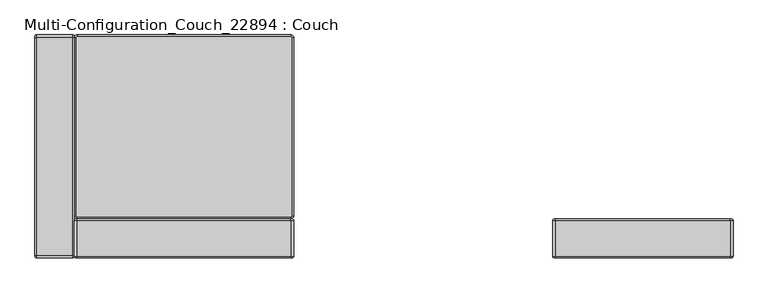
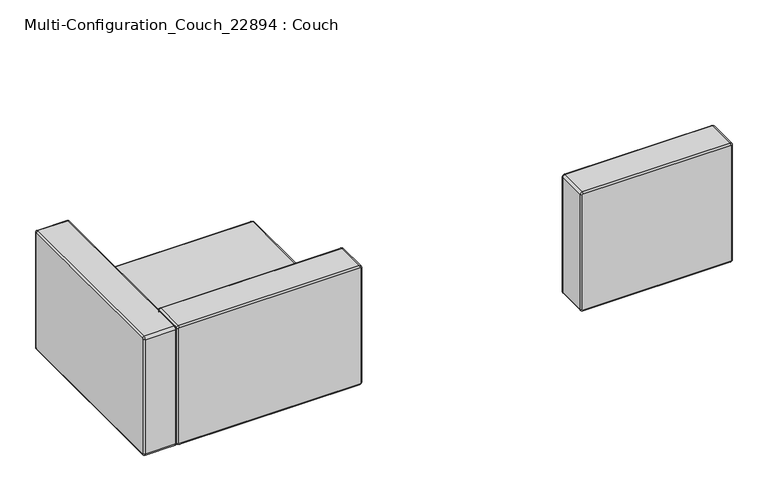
"""IFC4 building model written with IfcOpenShell, lengths in millimetres: furniture geometry, Multi-Configuration_Couch_22894 : Couch."""

from ifc_helpers import new_model, si_unit, point, frame, origin, place, context, project, spatial, circle_curve, ellipse_curve, trimmed, source, transform, mapped, element, save
from ifc_brep_helpers import plane_surface, cylinder_surface, revolved_surface, advanced_brep


def multi_configuration_couch_22894_couch_5e26b473(model_context):
    return source(origin(), model_context, "Body", "AdvancedBrep", [
        advanced_brep(
        [(-144.1762295, -114.3520492, 304.8), (-147.3512295, -111.1770492, 304.8), (-839.5012295, -111.1770492, 304.8), (-842.6762295, -114.3520492, 304.8), (-842.6762295, -692.2020492, 304.8), (-839.5012295, -695.3770492, 304.8), (-147.3512295, -695.3770492, 304.8), (-144.1762295, -692.2020492, 304.8), (-144.1762295, -692.2020492, 76.2), (-147.3512295, -695.3770492, 76.2), (-839.5012295, -695.3770492, 76.2), (-842.6762295, -692.2020492, 76.2), (-842.6762295, -114.3520492, 76.2), (-839.5012295, -111.1770492, 76.2), (-147.3512295, -111.1770492, 76.2), (-144.1762295, -114.3520492, 76.2), (-147.3512295, -104.8270492, 298.45), (-147.3512295, -104.8270492, 82.55), (-839.5012295, -104.8270492, 82.55), (-839.5012295, -104.8270492, 298.4500063), (-137.8262295, -692.2020492, 298.45), (-137.8262295, -692.2020492, 82.55), (-137.8262295, -114.3520492, 82.55), (-137.8262295, -114.3520492, 298.45), (-839.5012295, -701.7270492, 298.45), (-839.5012295, -701.7270492, 82.55), (-147.3512295, -701.7270492, 82.55), (-147.3512295, -701.7270492, 298.45), (-849.0262295, -114.3520492, 298.45), (-849.0262295, -114.3520492, 82.55), (-849.0262295, -692.2020492, 82.55), (-849.0262295, -692.2020492, 298.45)],
        [
            (0, 1, circle_curve(frame((-147.3512295, -114.3520492, 304.8), z_axis=(0.0, 0.0, 1.0), x_axis=(0.0, 1.0, 0.0)), 3.175)),
            (1, 2),
            (2, 3, circle_curve(frame((-839.5012295, -114.3520492, 304.8), z_axis=(0.0, 0.0, 1.0), x_axis=(-1.0, 0.0, 0.0)), 3.175)),
            (3, 4),
            (4, 5, circle_curve(frame((-839.5012295, -692.2020492, 304.8), z_axis=(0.0, 0.0, 1.0), x_axis=(0.0, -1.0, 0.0)), 3.175)),
            (5, 6),
            (6, 7, circle_curve(frame((-147.3512295, -692.2020492, 304.8), z_axis=(0.0, 0.0, 1.0), x_axis=(1.0, 0.0, 0.0)), 3.175)),
            (7, 0),
            (8, 9, circle_curve(frame((-147.3512295, -692.2020492, 76.2), z_axis=(0.0, 0.0, -1.0), x_axis=(1.0, 0.0, 0.0)), 3.175)),
            (9, 10),
            (10, 11, circle_curve(frame((-839.5012295, -692.2020492, 76.2), z_axis=(0.0, 0.0, -1.0), x_axis=(0.0, -1.0, 0.0)), 3.175)),
            (11, 12),
            (12, 13, circle_curve(frame((-839.5012295, -114.3520492, 76.2), z_axis=(0.0, 0.0, -1.0), x_axis=(-1.0, 0.0, 0.0)), 3.175)),
            (13, 14),
            (14, 15, circle_curve(frame((-147.3512295, -114.3520492, 76.2), z_axis=(0.0, 0.0, -1.0), x_axis=(0.0, 1.0, 0.0)), 3.175)),
            (15, 8),
            (16, 17),
            (17, 18),
            (18, 19),
            (19, 16),
            (20, 21),
            (21, 22),
            (22, 23),
            (23, 20),
            (24, 25),
            (25, 26),
            (26, 27),
            (27, 24),
            (28, 29),
            (29, 30),
            (30, 31),
            (31, 28),
            (22, 17, circle_curve(frame((-147.3512295, -114.3520492, 82.55), z_axis=(0.0, 0.0, 1.0), x_axis=(-1.0, 0.0, 0.0)), 9.525)),
            (16, 23, circle_curve(frame((-147.3512295, -114.3520492, 298.45), z_axis=(0.0, 0.0, -1.0), x_axis=(-1.0, 0.0, 0.0)), 9.525)),
            (18, 29, circle_curve(frame((-839.5012295, -114.3520492, 82.55), z_axis=(0.0, 0.0, 1.0), x_axis=(-1.0, 0.0, 0.0)), 9.525)),
            (28, 19, circle_curve(frame((-839.5012295, -114.3520492, 298.45), z_axis=(0.0, 0.0, -1.0), x_axis=(-1.0, 0.0, 0.0)), 9.525)),
            (26, 21, circle_curve(frame((-147.3512295, -692.2020492, 82.55), z_axis=(0.0, 0.0, 1.0), x_axis=(-1.0, 0.0, 0.0)), 9.525)),
            (20, 27, circle_curve(frame((-147.3512295, -692.2020492, 298.45), z_axis=(0.0, 0.0, -1.0), x_axis=(-1.0, 0.0, 0.0)), 9.525)),
            (30, 25, circle_curve(frame((-839.5012295, -692.2020492, 82.55), z_axis=(0.0, 0.0, 1.0), x_axis=(-1.0, 0.0, 0.0)), 9.525)),
            (24, 31, circle_curve(frame((-839.5012295, -692.2020492, 298.45), z_axis=(0.0, 0.0, -1.0), x_axis=(-1.0, 0.0, 0.0)), 9.525)),
            (23, 0, circle_curve(frame((-144.1762295, -114.3520492, 298.45), z_axis=(0.0, -1.0, 0.0), x_axis=(-1.0, 0.0, 0.0)), 6.35)),
            (7, 20, circle_curve(frame((-144.1762295, -692.2020492, 298.45), z_axis=(0.0, 1.0, 0.0), x_axis=(-1.0, 0.0, 0.0)), 6.35)),
            (27, 6, circle_curve(frame((-147.3512295, -695.3770492, 298.45), z_axis=(-1.0, 0.0, 0.0), x_axis=(0.0, 1.0, 0.0)), 6.35)),
            (5, 24, circle_curve(frame((-839.5012295, -695.3770492, 298.45), z_axis=(1.0, 0.0, 0.0), x_axis=(0.0, 1.0, 0.0)), 6.35)),
            (31, 4, circle_curve(frame((-842.6762295, -692.2020492, 298.45), z_axis=(0.0, 1.0, 0.0), x_axis=(1.0, 0.0, 0.0)), 6.35)),
            (3, 28, circle_curve(frame((-842.6762295, -114.3520492, 298.45), z_axis=(0.0, -1.0, 0.0), x_axis=(1.0, 0.0, 0.0)), 6.35)),
            (2, 19, circle_curve(frame((-839.5012295, -111.1770492, 298.45), z_axis=(-1.0, 0.0, 0.0), x_axis=(0.0, -1.0, 0.0)), 6.35)),
            (1, 16, circle_curve(frame((-147.3512295, -111.1770492, 298.45), z_axis=(-1.0, 0.0, 0.0), x_axis=(0.0, -1.0, 0.0)), 6.35)),
            (15, 22, circle_curve(frame((-144.1762295, -114.3520492, 82.55), z_axis=(0.0, -1.0, 0.0), x_axis=(-1.0, 0.0, 0.0)), 6.35)),
            (21, 8, circle_curve(frame((-144.1762295, -692.2020492, 82.55), z_axis=(0.0, 1.0, 0.0), x_axis=(-1.0, 0.0, 0.0)), 6.35)),
            (9, 26, circle_curve(frame((-147.3512295, -695.3770492, 82.55), z_axis=(-1.0, 0.0, 0.0), x_axis=(0.0, 1.0, 0.0)), 6.35)),
            (25, 10, circle_curve(frame((-839.5012295, -695.3770492, 82.55), z_axis=(1.0, 0.0, 0.0), x_axis=(0.0, 1.0, 0.0)), 6.35)),
            (11, 30, circle_curve(frame((-842.6762295, -692.2020492, 82.55), z_axis=(0.0, 1.0, 0.0), x_axis=(1.0, 0.0, 0.0)), 6.35)),
            (29, 12, circle_curve(frame((-842.6762295, -114.3520492, 82.55), z_axis=(0.0, -1.0, 0.0), x_axis=(1.0, 0.0, 0.0)), 6.35)),
            (13, 18, circle_curve(frame((-839.5012295, -111.1770492, 82.55), z_axis=(1.0, 0.0, 0.0), x_axis=(0.0, -1.0, 0.0)), 6.35)),
            (17, 14, circle_curve(frame((-147.3512295, -111.1770492, 82.55), z_axis=(-1.0, 0.0, 0.0), x_axis=(0.0, -1.0, 0.0)), 6.35)),
        ],
        [
            plane_surface(frame((-137.8262295, -104.8270492, 304.8), z_axis=(0.0, 0.0, 1.0), x_axis=(1.0, 0.0, 0.0))),
            plane_surface(frame((-137.8262295, -104.8270492, 76.2), z_axis=(0.0, 0.0, -1.0), x_axis=(-1.0, 0.0, 0.0))),
            plane_surface(frame((-849.0262295, -104.8270492, 304.8), z_axis=(0.0, 1.0, 0.0), x_axis=(0.0, 0.0, -1.0))),
            plane_surface(frame((-137.8262295, -104.8270492, 304.8), z_axis=(1.0, 0.0, 0.0), x_axis=(0.0, 0.0, -1.0))),
            plane_surface(frame((-137.8262295, -701.7270492, 304.8), z_axis=(0.0, -1.0, 0.0), x_axis=(0.0, 0.0, -1.0))),
            plane_surface(frame((-849.0262295, -701.7270492, 304.8), z_axis=(-1.0, 0.0, 0.0), x_axis=(0.0, 0.0, -1.0))),
            cylinder_surface(frame((-147.3512295, -114.3520492, 76.2), z_axis=(0.0, 0.0, -1.0), x_axis=(-1.0, 0.0, 0.0)), 9.525),
            cylinder_surface(frame((-839.5012295, -114.3520492, 76.2), z_axis=(0.0, 0.0, -1.0), x_axis=(-1.0, 0.0, 0.0)), 9.525),
            cylinder_surface(frame((-147.3512295, -692.2020492, 76.2), z_axis=(0.0, 0.0, -1.0), x_axis=(-1.0, 0.0, 0.0)), 9.525),
            cylinder_surface(frame((-839.5012295, -692.2020492, 76.2), z_axis=(0.0, 0.0, -1.0), x_axis=(-1.0, 0.0, 0.0)), 9.525),
            cylinder_surface(frame((-144.1762295, -114.3520492, 298.45), z_axis=(0.0, -1.0, 0.0), x_axis=(-1.0, 0.0, 0.0)), 6.35),
            cylinder_surface(frame((-147.3512295, -695.3770492, 298.45), z_axis=(-1.0, 0.0, 0.0), x_axis=(0.0, 1.0, 0.0)), 6.35),
            cylinder_surface(frame((-842.6762295, -692.2020492, 298.45), z_axis=(0.0, 1.0, 0.0), x_axis=(1.0, 0.0, 0.0)), 6.35),
            revolved_surface(trimmed(ellipse_curve(frame((-842.6762295, -114.3520492, 298.45), z_axis=(0.0, 1.0, 0.0), x_axis=(1.0, 0.0, 0.0)), 6.35, 6.35), [point((-849.0262295, -114.3520492, 298.45))], [point((-842.6762295, -114.3520492, 304.8))], True, "CARTESIAN"), (-839.5012295, -114.3520492, 304.8), (0.0, 0.0, 1.0)),
            cylinder_surface(frame((-839.5012295, -111.1770492, 298.45), z_axis=(1.0, 0.0, 0.0), x_axis=(0.0, -1.0, 0.0)), 6.35),
            cylinder_surface(frame((-144.1762295, -114.3520492, 82.55), z_axis=(0.0, -1.0, 0.0), x_axis=(-1.0, 0.0, 0.0)), 6.35),
            cylinder_surface(frame((-147.3512295, -695.3770492, 82.55), z_axis=(-1.0, 0.0, 0.0), x_axis=(0.0, 1.0, 0.0)), 6.35),
            cylinder_surface(frame((-842.6762295, -692.2020492, 82.55), z_axis=(0.0, 1.0, 0.0), x_axis=(1.0, 0.0, 0.0)), 6.35),
            cylinder_surface(frame((-839.5012295, -111.1770492, 82.55), z_axis=(1.0, 0.0, 0.0), x_axis=(0.0, -1.0, 0.0)), 6.35),
            revolved_surface(trimmed(ellipse_curve(frame((-147.3512295, -111.1770492, 298.45), z_axis=(1.0, 0.0, 0.0), x_axis=(0.0, -1.0, 0.0)), 6.35, 6.35), [point((-147.3512295, -104.8270492, 298.45))], [point((-147.3512295, -111.1770492, 304.8))], True, "CARTESIAN"), (-147.3512295, -114.3520492, 304.8), (0.0, 0.0, 1.0)),
            revolved_surface(trimmed(ellipse_curve(frame((-144.1762295, -692.2020492, 298.45), z_axis=(0.0, -1.0, 0.0), x_axis=(-1.0, 0.0, 0.0)), 6.35, 6.35), [point((-137.8262295, -692.2020492, 298.45))], [point((-144.1762295, -692.2020492, 304.8))], True, "CARTESIAN"), (-147.3512295, -692.2020492, 304.8), (0.0, 0.0, 1.0)),
            revolved_surface(trimmed(ellipse_curve(frame((-839.5012295, -695.3770492, 298.45), z_axis=(-1.0, 0.0, 0.0), x_axis=(0.0, 1.0, 0.0)), 6.35, 6.35), [point((-839.5012295, -701.7270492, 298.45))], [point((-839.5012295, -695.3770492, 304.8))], True, "CARTESIAN"), (-839.5012295, -692.2020492, 304.8), (0.0, 0.0, 1.0)),
            revolved_surface(trimmed(ellipse_curve(frame((-147.3512295, -111.1770492, 82.55), z_axis=(1.0, 0.0, 0.0), x_axis=(0.0, -1.0, 0.0)), 6.35, 6.35), [point((-147.3512295, -111.1770492, 76.2))], [point((-147.3512295, -104.8270492, 82.55))], True, "CARTESIAN"), (-147.3512295, -114.3520492, 76.2), (0.0, 0.0, 1.0)),
            revolved_surface(trimmed(ellipse_curve(frame((-144.1762295, -692.2020492, 82.55), z_axis=(0.0, -1.0, 0.0), x_axis=(-1.0, 0.0, 0.0)), 6.35, 6.35), [point((-144.1762295, -692.2020492, 76.2))], [point((-137.8262295, -692.2020492, 82.55))], True, "CARTESIAN"), (-147.3512295, -692.2020492, 76.2), (0.0, 0.0, 1.0)),
            revolved_surface(trimmed(ellipse_curve(frame((-839.5012295, -695.3770492, 82.55), z_axis=(-1.0, 0.0, 0.0), x_axis=(0.0, 1.0, 0.0)), 6.35, 6.35), [point((-839.5012295, -695.3770492, 76.2))], [point((-839.5012295, -701.7270492, 82.55))], True, "CARTESIAN"), (-839.5012295, -692.2020492, 76.2), (0.0, 0.0, 1.0)),
            revolved_surface(trimmed(ellipse_curve(frame((-842.6762295, -114.3520492, 82.55), z_axis=(0.0, 1.0, 0.0), x_axis=(1.0, 0.0, 0.0)), 6.35, 6.35), [point((-842.6762295, -114.3520492, 76.2))], [point((-849.0262295, -114.3520492, 82.55))], True, "CARTESIAN"), (-839.5012295, -114.3520492, 76.2), (0.0, 0.0, 1.0)),
        ],
        [
            (0, [[1, 2, 3, 4, 5, 6, 7, 8]]),
            (1, [[9, 10, 11, 12, 13, 14, 15, 16]]),
            (2, [[17, 18, 19, 20]]),
            (3, [[21, 22, 23, 24]]),
            (4, [[25, 26, 27, 28]]),
            (5, [[29, 30, 31, 32]]),
            (6, [[-23, 33, -17, 34]]),
            (7, [[-19, 35, -29, 36]]),
            (8, [[-27, 37, -21, 38]]),
            (9, [[-31, 39, -25, 40]]),
            (10, [[-24, 41, -8, 42]]),
            (11, [[-28, 43, -6, 44]]),
            (12, [[-32, 45, -4, 46]]),
            (13, [[-3, 47, -36, -46]]),
            (14, [[-2, 48, -20, -47]]),
            (15, [[-16, 49, -22, 50]]),
            (16, [[-10, 51, -26, 52]]),
            (17, [[-12, 53, -30, 54]]),
            (18, [[-14, 55, -18, 56]]),
            (19, [[-34, -48, -1, -41]]),
            (20, [[-7, -43, -38, -42]]),
            (21, [[-5, -45, -40, -44]]),
            (22, [[-15, -56, -33, -49]]),
            (23, [[-37, -51, -9, -50]]),
            (24, [[-39, -53, -11, -52]]),
            (25, [[-35, -55, -13, -54]]),
        ],
    ),
        advanced_brep(
        [(-842.6762295, -701.7270492, 549.275), (-839.5012295, -701.7270492, 552.45), (-147.3512295, -701.7270492, 552.45), (-144.1762295, -701.7270492, 549.275), (-144.1762295, -701.7270492, 85.725), (-147.3512295, -701.7270492, 82.55), (-839.5012295, -701.7270492, 82.55), (-842.6762295, -701.7270492, 85.725), (-842.6762295, -828.7270492, 85.725), (-839.5012295, -828.7270492, 82.55), (-147.3512295, -828.7270492, 82.55), (-144.1762295, -828.7270492, 85.725), (-144.1762295, -828.7270492, 549.275), (-147.3512295, -828.7270492, 552.45), (-839.5012295, -828.7270492, 552.45), (-842.6762295, -828.7270492, 549.275), (-839.5012295, -708.0770492, 558.8), (-839.5012295, -822.3770492, 558.8), (-147.3512295, -822.3770492, 558.8), (-147.3512295, -708.0770428, 558.8), (-849.0262295, -708.0770492, 85.725), (-849.0262295, -822.3770492, 85.725), (-849.0262295, -822.3770492, 549.275), (-849.0262295, -708.0770492, 549.275), (-147.3512295, -708.0770492, 76.2), (-147.3512295, -822.3770492, 76.2), (-839.5012295, -822.3770492, 76.2), (-839.5012295, -708.0770492, 76.2), (-137.8262295, -708.0770492, 549.275), (-137.8262295, -822.3770492, 549.275), (-137.8262295, -822.3770492, 85.725), (-137.8262295, -708.0770492, 85.725)],
        [
            (0, 1, circle_curve(frame((-839.5012295, -701.7270492, 549.275), z_axis=(0.0, 1.0, 0.0), x_axis=(0.0, 0.0, 1.0)), 3.175)),
            (1, 2),
            (2, 3, circle_curve(frame((-147.3512295, -701.7270492, 549.275), z_axis=(0.0, 1.0, 0.0), x_axis=(1.0, 0.0, 0.0)), 3.175)),
            (3, 4),
            (4, 5, circle_curve(frame((-147.3512295, -701.7270492, 85.725), z_axis=(0.0, 1.0, 0.0), x_axis=(0.0, 0.0, -1.0)), 3.175)),
            (5, 6),
            (6, 7, circle_curve(frame((-839.5012295, -701.7270492, 85.725), z_axis=(0.0, 1.0, 0.0), x_axis=(-1.0, 0.0, 0.0)), 3.175)),
            (7, 0),
            (8, 9, circle_curve(frame((-839.5012295, -828.7270492, 85.725), z_axis=(0.0, -1.0, 0.0), x_axis=(-1.0, 0.0, 0.0)), 3.175)),
            (9, 10),
            (10, 11, circle_curve(frame((-147.3512295, -828.7270492, 85.725), z_axis=(0.0, -1.0, 0.0), x_axis=(0.0, 0.0, -1.0)), 3.175)),
            (11, 12),
            (12, 13, circle_curve(frame((-147.3512295, -828.7270492, 549.275), z_axis=(0.0, -1.0, 0.0), x_axis=(1.0, 0.0, 0.0)), 3.175)),
            (13, 14),
            (14, 15, circle_curve(frame((-839.5012295, -828.7270492, 549.275), z_axis=(0.0, -1.0, 0.0), x_axis=(0.0, 0.0, 1.0)), 3.175)),
            (15, 8),
            (16, 17),
            (17, 18),
            (18, 19),
            (19, 16),
            (20, 21),
            (21, 22),
            (22, 23),
            (23, 20),
            (24, 25),
            (25, 26),
            (26, 27),
            (27, 24),
            (28, 29),
            (29, 30),
            (30, 31),
            (31, 28),
            (22, 17, circle_curve(frame((-839.5012295, -822.3770492, 549.275), z_axis=(0.0, 1.0, 0.0), x_axis=(1.0, 0.0, 0.0)), 9.525)),
            (16, 23, circle_curve(frame((-839.5012295, -708.0770492, 549.275), z_axis=(0.0, -1.0, 0.0), x_axis=(1.0, 0.0, 0.0)), 9.525)),
            (18, 29, circle_curve(frame((-147.3512295, -822.3770492, 549.275), z_axis=(0.0, 1.0, 0.0), x_axis=(1.0, 0.0, 0.0)), 9.525)),
            (28, 19, circle_curve(frame((-147.3512295, -708.0770492, 549.275), z_axis=(0.0, -1.0, 0.0), x_axis=(1.0, 0.0, 0.0)), 9.525)),
            (26, 21, circle_curve(frame((-839.5012295, -822.3770492, 85.725), z_axis=(0.0, 1.0, 0.0), x_axis=(1.0, 0.0, 0.0)), 9.525)),
            (20, 27, circle_curve(frame((-839.5012295, -708.0770492, 85.725), z_axis=(0.0, -1.0, 0.0), x_axis=(1.0, 0.0, 0.0)), 9.525)),
            (30, 25, circle_curve(frame((-147.3512295, -822.3770492, 85.725), z_axis=(0.0, 1.0, 0.0), x_axis=(1.0, 0.0, 0.0)), 9.525)),
            (24, 31, circle_curve(frame((-147.3512295, -708.0770492, 85.725), z_axis=(0.0, -1.0, 0.0), x_axis=(1.0, 0.0, 0.0)), 9.525)),
            (23, 0, circle_curve(frame((-842.6762295, -708.0770492, 549.275), z_axis=(0.0, 0.0, -1.0), x_axis=(1.0, 0.0, 0.0)), 6.35)),
            (7, 20, circle_curve(frame((-842.6762295, -708.0770492, 85.725), z_axis=(0.0, 0.0, 1.0), x_axis=(1.0, 0.0, 0.0)), 6.35)),
            (27, 6, circle_curve(frame((-839.5012295, -708.0770492, 82.55), z_axis=(1.0, 0.0, 0.0), x_axis=(0.0, 0.0, 1.0)), 6.35)),
            (5, 24, circle_curve(frame((-147.3512295, -708.0770492, 82.55), z_axis=(-1.0, 0.0, 0.0), x_axis=(0.0, 0.0, 1.0)), 6.35)),
            (31, 4, circle_curve(frame((-144.1762295, -708.0770492, 85.725), z_axis=(0.0, 0.0, 1.0), x_axis=(-1.0, 0.0, 0.0)), 6.35)),
            (3, 28, circle_curve(frame((-144.1762295, -708.0770492, 549.275), z_axis=(0.0, 0.0, -1.0), x_axis=(-1.0, 0.0, 0.0)), 6.35)),
            (2, 19, circle_curve(frame((-147.3512295, -708.0770492, 552.45), z_axis=(1.0, 0.0, 0.0), x_axis=(0.0, 0.0, -1.0)), 6.35)),
            (1, 16, circle_curve(frame((-839.5012295, -708.0770492, 552.45), z_axis=(1.0, 0.0, 0.0), x_axis=(0.0, 0.0, -1.0)), 6.35)),
            (15, 22, circle_curve(frame((-842.6762295, -822.3770492, 549.275), z_axis=(0.0, 0.0, -1.0), x_axis=(1.0, 0.0, 0.0)), 6.35)),
            (21, 8, circle_curve(frame((-842.6762295, -822.3770492, 85.725), z_axis=(0.0, 0.0, 1.0), x_axis=(1.0, 0.0, 0.0)), 6.35)),
            (9, 26, circle_curve(frame((-839.5012295, -822.3770492, 82.55), z_axis=(1.0, 0.0, 0.0), x_axis=(0.0, 0.0, 1.0)), 6.35)),
            (25, 10, circle_curve(frame((-147.3512295, -822.3770492, 82.55), z_axis=(-1.0, 0.0, 0.0), x_axis=(0.0, 0.0, 1.0)), 6.35)),
            (11, 30, circle_curve(frame((-144.1762295, -822.3770492, 85.725), z_axis=(0.0, 0.0, 1.0), x_axis=(-1.0, 0.0, 0.0)), 6.35)),
            (29, 12, circle_curve(frame((-144.1762295, -822.3770492, 549.275), z_axis=(0.0, 0.0, -1.0), x_axis=(-1.0, 0.0, 0.0)), 6.35)),
            (13, 18, circle_curve(frame((-147.3512295, -822.3770492, 552.45), z_axis=(-1.0, 0.0, 0.0), x_axis=(0.0, 0.0, -1.0)), 6.35)),
            (17, 14, circle_curve(frame((-839.5012295, -822.3770492, 552.45), z_axis=(1.0, 0.0, 0.0), x_axis=(0.0, 0.0, -1.0)), 6.35)),
        ],
        [
            plane_surface(frame((-849.0262295, -701.7270492, 558.8), z_axis=(0.0, 1.0, 0.0), x_axis=(-1.0, 0.0, 0.0))),
            plane_surface(frame((-849.0262295, -828.7270492, 558.8), z_axis=(0.0, -1.0, 0.0), x_axis=(1.0, 0.0, 0.0))),
            plane_surface(frame((-137.8262295, -701.7270492, 558.8), z_axis=(0.0, 0.0, 1.0), x_axis=(0.0, -1.0, 0.0))),
            plane_surface(frame((-849.0262295, -701.7270492, 558.8), z_axis=(-1.0, 0.0, 0.0), x_axis=(0.0, -1.0, 0.0))),
            plane_surface(frame((-849.0262295, -701.7270492, 76.2), z_axis=(0.0, 0.0, -1.0), x_axis=(0.0, -1.0, 0.0))),
            plane_surface(frame((-137.8262295, -701.7270492, 76.2), z_axis=(1.0, 0.0, 0.0), x_axis=(0.0, -1.0, 0.0))),
            cylinder_surface(frame((-839.5012295, -828.7270492, 549.275), z_axis=(0.0, -1.0, 0.0), x_axis=(1.0, 0.0, 0.0)), 9.525),
            cylinder_surface(frame((-147.3512295, -828.7270492, 549.275), z_axis=(0.0, -1.0, 0.0), x_axis=(1.0, 0.0, 0.0)), 9.525),
            cylinder_surface(frame((-839.5012295, -828.7270492, 85.725), z_axis=(0.0, -1.0, 0.0), x_axis=(1.0, 0.0, 0.0)), 9.525),
            cylinder_surface(frame((-147.3512295, -828.7270492, 85.725), z_axis=(0.0, -1.0, 0.0), x_axis=(1.0, 0.0, 0.0)), 9.525),
            cylinder_surface(frame((-842.6762295, -708.0770492, 549.275), z_axis=(0.0, 0.0, -1.0), x_axis=(1.0, 0.0, 0.0)), 6.35),
            cylinder_surface(frame((-839.5012295, -708.0770492, 82.55), z_axis=(1.0, 0.0, 0.0), x_axis=(0.0, 0.0, 1.0)), 6.35),
            cylinder_surface(frame((-144.1762295, -708.0770492, 85.725), z_axis=(0.0, 0.0, 1.0), x_axis=(-1.0, 0.0, 0.0)), 6.35),
            revolved_surface(trimmed(ellipse_curve(frame((-144.1762295, -708.0770492, 549.275), z_axis=(0.0, 0.0, 1.0), x_axis=(-1.0, 0.0, 0.0)), 6.35, 6.35), [point((-137.8262295, -708.0770492, 549.275))], [point((-144.1762295, -701.7270492, 549.275))], True, "CARTESIAN"), (-147.3512295, -701.7270492, 549.275), (0.0, 1.0, 0.0)),
            cylinder_surface(frame((-147.3512295, -708.0770492, 552.45), z_axis=(-1.0, 0.0, 0.0), x_axis=(0.0, 0.0, -1.0)), 6.35),
            cylinder_surface(frame((-842.6762295, -822.3770492, 549.275), z_axis=(0.0, 0.0, -1.0), x_axis=(1.0, 0.0, 0.0)), 6.35),
            cylinder_surface(frame((-839.5012295, -822.3770492, 82.55), z_axis=(1.0, 0.0, 0.0), x_axis=(0.0, 0.0, 1.0)), 6.35),
            cylinder_surface(frame((-144.1762295, -822.3770492, 85.725), z_axis=(0.0, 0.0, 1.0), x_axis=(-1.0, 0.0, 0.0)), 6.35),
            cylinder_surface(frame((-147.3512295, -822.3770492, 552.45), z_axis=(-1.0, 0.0, 0.0), x_axis=(0.0, 0.0, -1.0)), 6.35),
            revolved_surface(trimmed(ellipse_curve(frame((-839.5012295, -708.0770492, 552.45), z_axis=(-1.0, 0.0, 0.0), x_axis=(0.0, 0.0, -1.0)), 6.35, 6.35), [point((-839.5012295, -708.0770492, 558.8))], [point((-839.5012295, -701.7270492, 552.45))], True, "CARTESIAN"), (-839.5012295, -701.7270492, 549.275), (0.0, 1.0, 0.0)),
            revolved_surface(trimmed(ellipse_curve(frame((-842.6762295, -708.0770492, 85.725), z_axis=(0.0, 0.0, -1.0), x_axis=(1.0, 0.0, 0.0)), 6.35, 6.35), [point((-849.0262295, -708.0770492, 85.725))], [point((-842.6762295, -701.7270492, 85.725))], True, "CARTESIAN"), (-839.5012295, -701.7270492, 85.725), (0.0, 1.0, 0.0)),
            revolved_surface(trimmed(ellipse_curve(frame((-147.3512295, -708.0770492, 82.55), z_axis=(1.0, 0.0, 0.0), x_axis=(0.0, 0.0, 1.0)), 6.35, 6.35), [point((-147.3512295, -708.0770492, 76.2))], [point((-147.3512295, -701.7270492, 82.55))], True, "CARTESIAN"), (-147.3512295, -701.7270492, 85.725), (0.0, 1.0, 0.0)),
            revolved_surface(trimmed(ellipse_curve(frame((-839.5012295, -822.3770492, 552.45), z_axis=(-1.0, 0.0, 0.0), x_axis=(0.0, 0.0, -1.0)), 6.35, 6.35), [point((-839.5012295, -828.7270492, 552.45))], [point((-839.5012295, -822.3770492, 558.8))], True, "CARTESIAN"), (-839.5012295, -828.7270492, 549.275), (0.0, 1.0, 0.0)),
            revolved_surface(trimmed(ellipse_curve(frame((-842.6762295, -822.3770492, 85.725), z_axis=(0.0, 0.0, -1.0), x_axis=(1.0, 0.0, 0.0)), 6.35, 6.35), [point((-842.6762295, -828.7270492, 85.725))], [point((-849.0262295, -822.3770492, 85.725))], True, "CARTESIAN"), (-839.5012295, -828.7270492, 85.725), (0.0, 1.0, 0.0)),
            revolved_surface(trimmed(ellipse_curve(frame((-147.3512295, -822.3770492, 82.55), z_axis=(1.0, 0.0, 0.0), x_axis=(0.0, 0.0, 1.0)), 6.35, 6.35), [point((-147.3512295, -828.7270492, 82.55))], [point((-147.3512295, -822.3770492, 76.2))], True, "CARTESIAN"), (-147.3512295, -828.7270492, 85.725), (0.0, 1.0, 0.0)),
            revolved_surface(trimmed(ellipse_curve(frame((-144.1762295, -822.3770492, 549.275), z_axis=(0.0, 0.0, 1.0), x_axis=(-1.0, 0.0, 0.0)), 6.35, 6.35), [point((-144.1762295, -828.7270492, 549.275))], [point((-137.8262295, -822.3770492, 549.275))], True, "CARTESIAN"), (-147.3512295, -828.7270492, 549.275), (0.0, 1.0, 0.0)),
        ],
        [
            (0, [[1, 2, 3, 4, 5, 6, 7, 8]]),
            (1, [[9, 10, 11, 12, 13, 14, 15, 16]]),
            (2, [[17, 18, 19, 20]]),
            (3, [[21, 22, 23, 24]]),
            (4, [[25, 26, 27, 28]]),
            (5, [[29, 30, 31, 32]]),
            (6, [[-23, 33, -17, 34]]),
            (7, [[-19, 35, -29, 36]]),
            (8, [[-27, 37, -21, 38]]),
            (9, [[-31, 39, -25, 40]]),
            (10, [[-24, 41, -8, 42]]),
            (11, [[-28, 43, -6, 44]]),
            (12, [[-32, 45, -4, 46]]),
            (13, [[-3, 47, -36, -46]]),
            (14, [[-2, 48, -20, -47]]),
            (15, [[-16, 49, -22, 50]]),
            (16, [[-10, 51, -26, 52]]),
            (17, [[-12, 53, -30, 54]]),
            (18, [[-14, 55, -18, 56]]),
            (19, [[-34, -48, -1, -41]]),
            (20, [[-7, -43, -38, -42]]),
            (21, [[-5, -45, -40, -44]]),
            (22, [[-15, -56, -33, -49]]),
            (23, [[-37, -51, -9, -50]]),
            (24, [[-39, -53, -11, -52]]),
            (25, [[-35, -55, -13, -54]]),
        ],
    ),
        advanced_brep(
        [(-976.0262295, -822.3770492, 549.275), (-976.0262295, -819.2020492, 552.45), (-976.0262295, -114.3520492, 552.45), (-976.0262295, -111.1770492, 549.275), (-976.0262295, -111.1770492, 85.725), (-976.0262295, -114.3520492, 82.55), (-976.0262295, -819.2020492, 82.55), (-976.0262295, -822.3770492, 85.725), (-849.0262295, -822.3770492, 85.725), (-849.0262295, -819.2020492, 82.55), (-849.0262295, -114.3520492, 82.55), (-849.0262295, -111.1770492, 85.725), (-849.0262295, -111.1770492, 549.275), (-849.0262295, -114.3520492, 552.45), (-849.0262295, -819.2020492, 552.45), (-849.0262295, -822.3770492, 549.275), (-969.6762295, -819.2020492, 558.8), (-855.3762295, -819.2020492, 558.8), (-855.3762295, -114.3520492, 558.8), (-969.6762359, -114.3520492, 558.8), (-969.6762295, -828.7270492, 85.725), (-855.3762295, -828.7270492, 85.725), (-855.3762295, -828.7270492, 549.275), (-969.6762295, -828.7270492, 549.275), (-969.6762295, -114.3520492, 76.2), (-855.3762295, -114.3520492, 76.2), (-855.3762295, -819.2020492, 76.2), (-969.6762295, -819.2020492, 76.2), (-969.6762295, -104.8270492, 549.275), (-855.3762295, -104.8270492, 549.275), (-855.3762295, -104.8270492, 85.725), (-969.6762295, -104.8270492, 85.725)],
        [
            (0, 1, circle_curve(frame((-976.0262295, -819.2020492, 549.275), z_axis=(-1.0, 0.0, 0.0), x_axis=(0.0, 0.0, 1.0)), 3.175)),
            (1, 2),
            (2, 3, circle_curve(frame((-976.0262295, -114.3520492, 549.275), z_axis=(-1.0, 0.0, 0.0), x_axis=(0.0, 1.0, 0.0)), 3.175)),
            (3, 4),
            (4, 5, circle_curve(frame((-976.0262295, -114.3520492, 85.725), z_axis=(-1.0, 0.0, 0.0), x_axis=(0.0, 0.0, -1.0)), 3.175)),
            (5, 6),
            (6, 7, circle_curve(frame((-976.0262295, -819.2020492, 85.725), z_axis=(-1.0, 0.0, 0.0), x_axis=(0.0, -1.0, 0.0)), 3.175)),
            (7, 0),
            (8, 9, circle_curve(frame((-849.0262295, -819.2020492, 85.725), z_axis=(1.0, 0.0, 0.0), x_axis=(0.0, -1.0, 0.0)), 3.175)),
            (9, 10),
            (10, 11, circle_curve(frame((-849.0262295, -114.3520492, 85.725), z_axis=(1.0, 0.0, 0.0), x_axis=(0.0, 0.0, -1.0)), 3.175)),
            (11, 12),
            (12, 13, circle_curve(frame((-849.0262295, -114.3520492, 549.275), z_axis=(1.0, 0.0, 0.0), x_axis=(0.0, 1.0, 0.0)), 3.175)),
            (13, 14),
            (14, 15, circle_curve(frame((-849.0262295, -819.2020492, 549.275), z_axis=(1.0, 0.0, 0.0), x_axis=(0.0, 0.0, 1.0)), 3.175)),
            (15, 8),
            (16, 17),
            (17, 18),
            (18, 19),
            (19, 16),
            (20, 21),
            (21, 22),
            (22, 23),
            (23, 20),
            (24, 25),
            (25, 26),
            (26, 27),
            (27, 24),
            (28, 29),
            (29, 30),
            (30, 31),
            (31, 28),
            (22, 17, circle_curve(frame((-855.3762295, -819.2020492, 549.275), z_axis=(-1.0, 0.0, 0.0), x_axis=(0.0, 1.0, 0.0)), 9.525)),
            (16, 23, circle_curve(frame((-969.6762295, -819.2020492, 549.275), z_axis=(1.0, 0.0, 0.0), x_axis=(0.0, 1.0, 0.0)), 9.525)),
            (18, 29, circle_curve(frame((-855.3762295, -114.3520492, 549.275), z_axis=(-1.0, 0.0, 0.0), x_axis=(0.0, 1.0, 0.0)), 9.525)),
            (28, 19, circle_curve(frame((-969.6762295, -114.3520492, 549.275), z_axis=(1.0, 0.0, 0.0), x_axis=(0.0, 1.0, 0.0)), 9.525)),
            (26, 21, circle_curve(frame((-855.3762295, -819.2020492, 85.725), z_axis=(-1.0, 0.0, 0.0), x_axis=(0.0, 1.0, 0.0)), 9.525)),
            (20, 27, circle_curve(frame((-969.6762295, -819.2020492, 85.725), z_axis=(1.0, 0.0, 0.0), x_axis=(0.0, 1.0, 0.0)), 9.525)),
            (30, 25, circle_curve(frame((-855.3762295, -114.3520492, 85.725), z_axis=(-1.0, 0.0, 0.0), x_axis=(0.0, 1.0, 0.0)), 9.525)),
            (24, 31, circle_curve(frame((-969.6762295, -114.3520492, 85.725), z_axis=(1.0, 0.0, 0.0), x_axis=(0.0, 1.0, 0.0)), 9.525)),
            (23, 0, circle_curve(frame((-969.6762295, -822.3770492, 549.275), z_axis=(0.0, 0.0, -1.0), x_axis=(0.0, 1.0, 0.0)), 6.35)),
            (7, 20, circle_curve(frame((-969.6762295, -822.3770492, 85.725), z_axis=(0.0, 0.0, 1.0), x_axis=(0.0, 1.0, 0.0)), 6.35)),
            (27, 6, circle_curve(frame((-969.6762295, -819.2020492, 82.55), z_axis=(0.0, 1.0, 0.0), x_axis=(0.0, 0.0, 1.0)), 6.35)),
            (5, 24, circle_curve(frame((-969.6762295, -114.3520492, 82.55), z_axis=(0.0, -1.0, 0.0), x_axis=(0.0, 0.0, 1.0)), 6.35)),
            (31, 4, circle_curve(frame((-969.6762295, -111.1770492, 85.725), z_axis=(0.0, 0.0, 1.0), x_axis=(0.0, -1.0, 0.0)), 6.35)),
            (3, 28, circle_curve(frame((-969.6762295, -111.1770492, 549.275), z_axis=(0.0, 0.0, -1.0), x_axis=(0.0, -1.0, 0.0)), 6.35)),
            (2, 19, circle_curve(frame((-969.6762295, -114.3520492, 552.45), z_axis=(0.0, 1.0, 0.0), x_axis=(0.0, 0.0, -1.0)), 6.35)),
            (1, 16, circle_curve(frame((-969.6762295, -819.2020492, 552.45), z_axis=(0.0, 1.0, 0.0), x_axis=(0.0, 0.0, -1.0)), 6.35)),
            (15, 22, circle_curve(frame((-855.3762295, -822.3770492, 549.275), z_axis=(0.0, 0.0, -1.0), x_axis=(0.0, 1.0, 0.0)), 6.35)),
            (21, 8, circle_curve(frame((-855.3762295, -822.3770492, 85.725), z_axis=(0.0, 0.0, 1.0), x_axis=(0.0, 1.0, 0.0)), 6.35)),
            (9, 26, circle_curve(frame((-855.3762295, -819.2020492, 82.55), z_axis=(0.0, 1.0, 0.0), x_axis=(0.0, 0.0, 1.0)), 6.35)),
            (25, 10, circle_curve(frame((-855.3762295, -114.3520492, 82.55), z_axis=(0.0, -1.0, 0.0), x_axis=(0.0, 0.0, 1.0)), 6.35)),
            (11, 30, circle_curve(frame((-855.3762295, -111.1770492, 85.725), z_axis=(0.0, 0.0, 1.0), x_axis=(0.0, -1.0, 0.0)), 6.35)),
            (29, 12, circle_curve(frame((-855.3762295, -111.1770492, 549.275), z_axis=(0.0, 0.0, -1.0), x_axis=(0.0, -1.0, 0.0)), 6.35)),
            (13, 18, circle_curve(frame((-855.3762295, -114.3520492, 552.45), z_axis=(0.0, -1.0, 0.0), x_axis=(0.0, 0.0, -1.0)), 6.35)),
            (17, 14, circle_curve(frame((-855.3762295, -819.2020492, 552.45), z_axis=(0.0, 1.0, 0.0), x_axis=(0.0, 0.0, -1.0)), 6.35)),
        ],
        [
            plane_surface(frame((-976.0262295, -828.7270492, 558.8), z_axis=(-1.0, 0.0, 0.0), x_axis=(0.0, -1.0, 0.0))),
            plane_surface(frame((-849.0262295, -828.7270492, 558.8), z_axis=(1.0, 0.0, 0.0), x_axis=(0.0, 1.0, 0.0))),
            plane_surface(frame((-976.0262295, -104.8270492, 558.8), z_axis=(0.0, 0.0, 1.0), x_axis=(1.0, 0.0, 0.0))),
            plane_surface(frame((-976.0262295, -828.7270492, 558.8), z_axis=(0.0, -1.0, 0.0), x_axis=(1.0, 0.0, 0.0))),
            plane_surface(frame((-976.0262295, -828.7270492, 76.2), z_axis=(0.0, 0.0, -1.0), x_axis=(1.0, 0.0, 0.0))),
            plane_surface(frame((-976.0262295, -104.8270492, 76.2), z_axis=(0.0, 1.0, 0.0), x_axis=(1.0, 0.0, 0.0))),
            cylinder_surface(frame((-849.0262295, -819.2020492, 549.275), z_axis=(1.0, 0.0, 0.0), x_axis=(0.0, 1.0, 0.0)), 9.525),
            cylinder_surface(frame((-849.0262295, -114.3520492, 549.275), z_axis=(1.0, 0.0, 0.0), x_axis=(0.0, 1.0, 0.0)), 9.525),
            cylinder_surface(frame((-849.0262295, -819.2020492, 85.725), z_axis=(1.0, 0.0, 0.0), x_axis=(0.0, 1.0, 0.0)), 9.525),
            cylinder_surface(frame((-849.0262295, -114.3520492, 85.725), z_axis=(1.0, 0.0, 0.0), x_axis=(0.0, 1.0, 0.0)), 9.525),
            cylinder_surface(frame((-969.6762295, -822.3770492, 549.275), z_axis=(0.0, 0.0, -1.0), x_axis=(0.0, 1.0, 0.0)), 6.35),
            cylinder_surface(frame((-969.6762295, -819.2020492, 82.55), z_axis=(0.0, 1.0, 0.0), x_axis=(0.0, 0.0, 1.0)), 6.35),
            cylinder_surface(frame((-969.6762295, -111.1770492, 85.725), z_axis=(0.0, 0.0, 1.0), x_axis=(0.0, -1.0, 0.0)), 6.35),
            revolved_surface(trimmed(ellipse_curve(frame((-969.6762295, -111.1770492, 549.275), z_axis=(0.0, 0.0, 1.0), x_axis=(0.0, -1.0, 0.0)), 6.35, 6.35), [point((-969.6762295, -104.8270492, 549.275))], [point((-976.0262295, -111.1770492, 549.275))], True, "CARTESIAN"), (-976.0262295, -114.3520492, 549.275), (-1.0, 0.0, 0.0)),
            cylinder_surface(frame((-969.6762295, -114.3520492, 552.45), z_axis=(0.0, -1.0, 0.0), x_axis=(0.0, 0.0, -1.0)), 6.35),
            cylinder_surface(frame((-855.3762295, -822.3770492, 549.275), z_axis=(0.0, 0.0, -1.0), x_axis=(0.0, 1.0, 0.0)), 6.35),
            cylinder_surface(frame((-855.3762295, -819.2020492, 82.55), z_axis=(0.0, 1.0, 0.0), x_axis=(0.0, 0.0, 1.0)), 6.35),
            cylinder_surface(frame((-855.3762295, -111.1770492, 85.725), z_axis=(0.0, 0.0, 1.0), x_axis=(0.0, -1.0, 0.0)), 6.35),
            cylinder_surface(frame((-855.3762295, -114.3520492, 552.45), z_axis=(0.0, -1.0, 0.0), x_axis=(0.0, 0.0, -1.0)), 6.35),
            revolved_surface(trimmed(ellipse_curve(frame((-969.6762295, -819.2020492, 552.45), z_axis=(0.0, -1.0, 0.0), x_axis=(0.0, 0.0, -1.0)), 6.35, 6.35), [point((-969.6762295, -819.2020492, 558.8))], [point((-976.0262295, -819.2020492, 552.45))], True, "CARTESIAN"), (-976.0262295, -819.2020492, 549.275), (-1.0, 0.0, 0.0)),
            revolved_surface(trimmed(ellipse_curve(frame((-969.6762295, -822.3770492, 85.725), z_axis=(0.0, 0.0, -1.0), x_axis=(0.0, 1.0, 0.0)), 6.35, 6.35), [point((-969.6762295, -828.7270492, 85.725))], [point((-976.0262295, -822.3770492, 85.725))], True, "CARTESIAN"), (-976.0262295, -819.2020492, 85.725), (-1.0, 0.0, 0.0)),
            revolved_surface(trimmed(ellipse_curve(frame((-969.6762295, -114.3520492, 82.55), z_axis=(0.0, 1.0, 0.0), x_axis=(0.0, 0.0, 1.0)), 6.35, 6.35), [point((-969.6762295, -114.3520492, 76.2))], [point((-976.0262295, -114.3520492, 82.55))], True, "CARTESIAN"), (-976.0262295, -114.3520492, 85.725), (-1.0, 0.0, 0.0)),
            revolved_surface(trimmed(ellipse_curve(frame((-855.3762295, -819.2020492, 552.45), z_axis=(0.0, -1.0, 0.0), x_axis=(0.0, 0.0, -1.0)), 6.35, 6.35), [point((-849.0262295, -819.2020492, 552.45))], [point((-855.3762295, -819.2020492, 558.8))], True, "CARTESIAN"), (-849.0262295, -819.2020492, 549.275), (-1.0, 0.0, 0.0)),
            revolved_surface(trimmed(ellipse_curve(frame((-855.3762295, -822.3770492, 85.725), z_axis=(0.0, 0.0, -1.0), x_axis=(0.0, 1.0, 0.0)), 6.35, 6.35), [point((-849.0262295, -822.3770492, 85.725))], [point((-855.3762295, -828.7270492, 85.725))], True, "CARTESIAN"), (-849.0262295, -819.2020492, 85.725), (-1.0, 0.0, 0.0)),
            revolved_surface(trimmed(ellipse_curve(frame((-855.3762295, -114.3520492, 82.55), z_axis=(0.0, 1.0, 0.0), x_axis=(0.0, 0.0, 1.0)), 6.35, 6.35), [point((-849.0262295, -114.3520492, 82.55))], [point((-855.3762295, -114.3520492, 76.2))], True, "CARTESIAN"), (-849.0262295, -114.3520492, 85.725), (-1.0, 0.0, 0.0)),
            revolved_surface(trimmed(ellipse_curve(frame((-855.3762295, -111.1770492, 549.275), z_axis=(0.0, 0.0, 1.0), x_axis=(0.0, -1.0, 0.0)), 6.35, 6.35), [point((-849.0262295, -111.1770492, 549.275))], [point((-855.3762295, -104.8270492, 549.275))], True, "CARTESIAN"), (-849.0262295, -114.3520492, 549.275), (-1.0, 0.0, 0.0)),
        ],
        [
            (0, [[1, 2, 3, 4, 5, 6, 7, 8]]),
            (1, [[9, 10, 11, 12, 13, 14, 15, 16]]),
            (2, [[17, 18, 19, 20]]),
            (3, [[21, 22, 23, 24]]),
            (4, [[25, 26, 27, 28]]),
            (5, [[29, 30, 31, 32]]),
            (6, [[-23, 33, -17, 34]]),
            (7, [[-19, 35, -29, 36]]),
            (8, [[-27, 37, -21, 38]]),
            (9, [[-31, 39, -25, 40]]),
            (10, [[-24, 41, -8, 42]]),
            (11, [[-28, 43, -6, 44]]),
            (12, [[-32, 45, -4, 46]]),
            (13, [[-3, 47, -36, -46]]),
            (14, [[-2, 48, -20, -47]]),
            (15, [[-16, 49, -22, 50]]),
            (16, [[-10, 51, -26, 52]]),
            (17, [[-12, 53, -30, 54]]),
            (18, [[-14, 55, -18, 56]]),
            (19, [[-34, -48, -1, -41]]),
            (20, [[-7, -43, -38, -42]]),
            (21, [[-5, -45, -40, -44]]),
            (22, [[-15, -56, -33, -49]]),
            (23, [[-37, -51, -9, -50]]),
            (24, [[-39, -53, -11, -52]]),
            (25, [[-35, -55, -13, -54]]),
        ],
    ),
        advanced_brep(
        [(706.7237705, -701.7270492, 549.275), (709.8987705, -701.7270492, 552.45), (1275.0487705, -701.7270492, 552.45), (1278.2237705, -701.7270492, 549.275), (1278.2237705, -701.7270492, 85.725), (1275.0487705, -701.7270492, 82.55), (709.8987705, -701.7270492, 82.55), (706.7237705, -701.7270492, 85.725), (706.7237705, -828.7270492, 85.725), (709.8987705, -828.7270492, 82.55), (1275.0487705, -828.7270492, 82.55), (1278.2237705, -828.7270492, 85.725), (1278.2237705, -828.7270492, 549.275), (1275.0487705, -828.7270492, 552.45), (709.8987705, -828.7270492, 552.45), (706.7237705, -828.7270492, 549.275), (709.8987705, -708.0770492, 558.8), (709.8987705, -822.3770492, 558.8), (1275.0487705, -822.3770492, 558.8), (1275.0487705, -708.0770428, 558.8), (700.3737705, -708.0770492, 85.725), (700.3737705, -822.3770492, 85.725), (700.3737705, -822.3770492, 549.275), (700.3737705, -708.0770492, 549.275), (1275.0487705, -708.0770492, 76.2), (1275.0487705, -822.3770492, 76.2), (709.8987705, -822.3770492, 76.2), (709.8987705, -708.0770492, 76.2), (1284.5737705, -708.0770492, 549.275), (1284.5737705, -822.3770492, 549.275), (1284.5737705, -822.3770492, 85.725), (1284.5737705, -708.0770492, 85.725)],
        [
            (0, 1, circle_curve(frame((709.8987705, -701.7270492, 549.275), z_axis=(0.0, 1.0, 0.0), x_axis=(0.0, 0.0, 1.0)), 3.175)),
            (1, 2),
            (2, 3, circle_curve(frame((1275.0487705, -701.7270492, 549.275), z_axis=(0.0, 1.0, 0.0), x_axis=(1.0, 0.0, 0.0)), 3.175)),
            (3, 4),
            (4, 5, circle_curve(frame((1275.0487705, -701.7270492, 85.725), z_axis=(0.0, 1.0, 0.0), x_axis=(0.0, 0.0, -1.0)), 3.175)),
            (5, 6),
            (6, 7, circle_curve(frame((709.8987705, -701.7270492, 85.725), z_axis=(0.0, 1.0, 0.0), x_axis=(-1.0, 0.0, 0.0)), 3.175)),
            (7, 0),
            (8, 9, circle_curve(frame((709.8987705, -828.7270492, 85.725), z_axis=(0.0, -1.0, 0.0), x_axis=(-1.0, 0.0, 0.0)), 3.175)),
            (9, 10),
            (10, 11, circle_curve(frame((1275.0487705, -828.7270492, 85.725), z_axis=(0.0, -1.0, 0.0), x_axis=(0.0, 0.0, -1.0)), 3.175)),
            (11, 12),
            (12, 13, circle_curve(frame((1275.0487705, -828.7270492, 549.275), z_axis=(0.0, -1.0, 0.0), x_axis=(1.0, 0.0, 0.0)), 3.175)),
            (13, 14),
            (14, 15, circle_curve(frame((709.8987705, -828.7270492, 549.275), z_axis=(0.0, -1.0, 0.0), x_axis=(0.0, 0.0, 1.0)), 3.175)),
            (15, 8),
            (16, 17),
            (17, 18),
            (18, 19),
            (19, 16),
            (20, 21),
            (21, 22),
            (22, 23),
            (23, 20),
            (24, 25),
            (25, 26),
            (26, 27),
            (27, 24),
            (28, 29),
            (29, 30),
            (30, 31),
            (31, 28),
            (22, 17, circle_curve(frame((709.8987705, -822.3770492, 549.275), z_axis=(0.0, 1.0, 0.0), x_axis=(1.0, 0.0, 0.0)), 9.525)),
            (16, 23, circle_curve(frame((709.8987705, -708.0770492, 549.275), z_axis=(0.0, -1.0, 0.0), x_axis=(1.0, 0.0, 0.0)), 9.525)),
            (18, 29, circle_curve(frame((1275.0487705, -822.3770492, 549.275), z_axis=(0.0, 1.0, 0.0), x_axis=(1.0, 0.0, 0.0)), 9.525)),
            (28, 19, circle_curve(frame((1275.0487705, -708.0770492, 549.275), z_axis=(0.0, -1.0, 0.0), x_axis=(1.0, 0.0, 0.0)), 9.525)),
            (26, 21, circle_curve(frame((709.8987705, -822.3770492, 85.725), z_axis=(0.0, 1.0, 0.0), x_axis=(1.0, 0.0, 0.0)), 9.525)),
            (20, 27, circle_curve(frame((709.8987705, -708.0770492, 85.725), z_axis=(0.0, -1.0, 0.0), x_axis=(1.0, 0.0, 0.0)), 9.525)),
            (30, 25, circle_curve(frame((1275.0487705, -822.3770492, 85.725), z_axis=(0.0, 1.0, 0.0), x_axis=(1.0, 0.0, 0.0)), 9.525)),
            (24, 31, circle_curve(frame((1275.0487705, -708.0770492, 85.725), z_axis=(0.0, -1.0, 0.0), x_axis=(1.0, 0.0, 0.0)), 9.525)),
            (23, 0, circle_curve(frame((706.7237705, -708.0770492, 549.275), z_axis=(0.0, 0.0, -1.0), x_axis=(1.0, 0.0, 0.0)), 6.35)),
            (7, 20, circle_curve(frame((706.7237705, -708.0770492, 85.725), z_axis=(0.0, 0.0, 1.0), x_axis=(1.0, 0.0, 0.0)), 6.35)),
            (27, 6, circle_curve(frame((709.8987705, -708.0770492, 82.55), z_axis=(1.0, 0.0, 0.0), x_axis=(0.0, 0.0, 1.0)), 6.35)),
            (5, 24, circle_curve(frame((1275.0487705, -708.0770492, 82.55), z_axis=(-1.0, 0.0, 0.0), x_axis=(0.0, 0.0, 1.0)), 6.35)),
            (31, 4, circle_curve(frame((1278.2237705, -708.0770492, 85.725), z_axis=(0.0, 0.0, 1.0), x_axis=(-1.0, 0.0, 0.0)), 6.35)),
            (3, 28, circle_curve(frame((1278.2237705, -708.0770492, 549.275), z_axis=(0.0, 0.0, -1.0), x_axis=(-1.0, 0.0, 0.0)), 6.35)),
            (2, 19, circle_curve(frame((1275.0487705, -708.0770492, 552.45), z_axis=(1.0, 0.0, 0.0), x_axis=(0.0, 0.0, -1.0)), 6.35)),
            (1, 16, circle_curve(frame((709.8987705, -708.0770492, 552.45), z_axis=(1.0, 0.0, 0.0), x_axis=(0.0, 0.0, -1.0)), 6.35)),
            (15, 22, circle_curve(frame((706.7237705, -822.3770492, 549.275), z_axis=(0.0, 0.0, -1.0), x_axis=(1.0, 0.0, 0.0)), 6.35)),
            (21, 8, circle_curve(frame((706.7237705, -822.3770492, 85.725), z_axis=(0.0, 0.0, 1.0), x_axis=(1.0, 0.0, 0.0)), 6.35)),
            (9, 26, circle_curve(frame((709.8987705, -822.3770492, 82.55), z_axis=(1.0, 0.0, 0.0), x_axis=(0.0, 0.0, 1.0)), 6.35)),
            (25, 10, circle_curve(frame((1275.0487705, -822.3770492, 82.55), z_axis=(-1.0, 0.0, 0.0), x_axis=(0.0, 0.0, 1.0)), 6.35)),
            (11, 30, circle_curve(frame((1278.2237705, -822.3770492, 85.725), z_axis=(0.0, 0.0, 1.0), x_axis=(-1.0, 0.0, 0.0)), 6.35)),
            (29, 12, circle_curve(frame((1278.2237705, -822.3770492, 549.275), z_axis=(0.0, 0.0, -1.0), x_axis=(-1.0, 0.0, 0.0)), 6.35)),
            (13, 18, circle_curve(frame((1275.0487705, -822.3770492, 552.45), z_axis=(-1.0, 0.0, 0.0), x_axis=(0.0, 0.0, -1.0)), 6.35)),
            (17, 14, circle_curve(frame((709.8987705, -822.3770492, 552.45), z_axis=(1.0, 0.0, 0.0), x_axis=(0.0, 0.0, -1.0)), 6.35)),
        ],
        [
            plane_surface(frame((700.3737705, -701.7270492, 558.8), z_axis=(0.0, 1.0, 0.0), x_axis=(-1.0, 0.0, 0.0))),
            plane_surface(frame((700.3737705, -828.7270492, 558.8), z_axis=(0.0, -1.0, 0.0), x_axis=(1.0, 0.0, 0.0))),
            plane_surface(frame((1284.5737705, -701.7270492, 558.8), z_axis=(0.0, 0.0, 1.0), x_axis=(0.0, -1.0, 0.0))),
            plane_surface(frame((700.3737705, -701.7270492, 558.8), z_axis=(-1.0, 0.0, 0.0), x_axis=(0.0, -1.0, 0.0))),
            plane_surface(frame((700.3737705, -701.7270492, 76.2), z_axis=(0.0, 0.0, -1.0), x_axis=(0.0, -1.0, 0.0))),
            plane_surface(frame((1284.5737705, -701.7270492, 76.2), z_axis=(1.0, 0.0, 0.0), x_axis=(0.0, -1.0, 0.0))),
            cylinder_surface(frame((709.8987705, -828.7270492, 549.275), z_axis=(0.0, -1.0, 0.0), x_axis=(1.0, 0.0, 0.0)), 9.525),
            cylinder_surface(frame((1275.0487705, -828.7270492, 549.275), z_axis=(0.0, -1.0, 0.0), x_axis=(1.0, 0.0, 0.0)), 9.525),
            cylinder_surface(frame((709.8987705, -828.7270492, 85.725), z_axis=(0.0, -1.0, 0.0), x_axis=(1.0, 0.0, 0.0)), 9.525),
            cylinder_surface(frame((1275.0487705, -828.7270492, 85.725), z_axis=(0.0, -1.0, 0.0), x_axis=(1.0, 0.0, 0.0)), 9.525),
            cylinder_surface(frame((706.7237705, -708.0770492, 549.275), z_axis=(0.0, 0.0, -1.0), x_axis=(1.0, 0.0, 0.0)), 6.35),
            cylinder_surface(frame((709.8987705, -708.0770492, 82.55), z_axis=(1.0, 0.0, 0.0), x_axis=(0.0, 0.0, 1.0)), 6.35),
            cylinder_surface(frame((1278.2237705, -708.0770492, 85.725), z_axis=(0.0, 0.0, 1.0), x_axis=(-1.0, 0.0, 0.0)), 6.35),
            revolved_surface(trimmed(ellipse_curve(frame((1278.2237705, -708.0770492, 549.275), z_axis=(0.0, 0.0, 1.0), x_axis=(-1.0, 0.0, 0.0)), 6.35, 6.35), [point((1284.5737705, -708.0770492, 549.275))], [point((1278.2237705, -701.7270492, 549.275))], True, "CARTESIAN"), (1275.0487705, -701.7270492, 549.275), (0.0, 1.0, 0.0)),
            cylinder_surface(frame((1275.0487705, -708.0770492, 552.45), z_axis=(-1.0, 0.0, 0.0), x_axis=(0.0, 0.0, -1.0)), 6.35),
            cylinder_surface(frame((706.7237705, -822.3770492, 549.275), z_axis=(0.0, 0.0, -1.0), x_axis=(1.0, 0.0, 0.0)), 6.35),
            cylinder_surface(frame((709.8987705, -822.3770492, 82.55), z_axis=(1.0, 0.0, 0.0), x_axis=(0.0, 0.0, 1.0)), 6.35),
            cylinder_surface(frame((1278.2237705, -822.3770492, 85.725), z_axis=(0.0, 0.0, 1.0), x_axis=(-1.0, 0.0, 0.0)), 6.35),
            cylinder_surface(frame((1275.0487705, -822.3770492, 552.45), z_axis=(-1.0, 0.0, 0.0), x_axis=(0.0, 0.0, -1.0)), 6.35),
            revolved_surface(trimmed(ellipse_curve(frame((709.8987705, -708.0770492, 552.45), z_axis=(-1.0, 0.0, 0.0), x_axis=(0.0, 0.0, -1.0)), 6.35, 6.35), [point((709.8987705, -708.0770492, 558.8))], [point((709.8987705, -701.7270492, 552.45))], True, "CARTESIAN"), (709.8987705, -701.7270492, 549.275), (0.0, 1.0, 0.0)),
            revolved_surface(trimmed(ellipse_curve(frame((706.7237705, -708.0770492, 85.725), z_axis=(0.0, 0.0, -1.0), x_axis=(1.0, 0.0, 0.0)), 6.35, 6.35), [point((700.3737705, -708.0770492, 85.725))], [point((706.7237705, -701.7270492, 85.725))], True, "CARTESIAN"), (709.8987705, -701.7270492, 85.725), (0.0, 1.0, 0.0)),
            revolved_surface(trimmed(ellipse_curve(frame((1275.0487705, -708.0770492, 82.55), z_axis=(1.0, 0.0, 0.0), x_axis=(0.0, 0.0, 1.0)), 6.35, 6.35), [point((1275.0487705, -708.0770492, 76.2))], [point((1275.0487705, -701.7270492, 82.55))], True, "CARTESIAN"), (1275.0487705, -701.7270492, 85.725), (0.0, 1.0, 0.0)),
            revolved_surface(trimmed(ellipse_curve(frame((709.8987705, -822.3770492, 552.45), z_axis=(-1.0, 0.0, 0.0), x_axis=(0.0, 0.0, -1.0)), 6.35, 6.35), [point((709.8987705, -828.7270492, 552.45))], [point((709.8987705, -822.3770492, 558.8))], True, "CARTESIAN"), (709.8987705, -828.7270492, 549.275), (0.0, 1.0, 0.0)),
            revolved_surface(trimmed(ellipse_curve(frame((706.7237705, -822.3770492, 85.725), z_axis=(0.0, 0.0, -1.0), x_axis=(1.0, 0.0, 0.0)), 6.35, 6.35), [point((706.7237705, -828.7270492, 85.725))], [point((700.3737705, -822.3770492, 85.725))], True, "CARTESIAN"), (709.8987705, -828.7270492, 85.725), (0.0, 1.0, 0.0)),
            revolved_surface(trimmed(ellipse_curve(frame((1275.0487705, -822.3770492, 82.55), z_axis=(1.0, 0.0, 0.0), x_axis=(0.0, 0.0, 1.0)), 6.35, 6.35), [point((1275.0487705, -828.7270492, 82.55))], [point((1275.0487705, -822.3770492, 76.2))], True, "CARTESIAN"), (1275.0487705, -828.7270492, 85.725), (0.0, 1.0, 0.0)),
            revolved_surface(trimmed(ellipse_curve(frame((1278.2237705, -822.3770492, 549.275), z_axis=(0.0, 0.0, 1.0), x_axis=(-1.0, 0.0, 0.0)), 6.35, 6.35), [point((1278.2237705, -828.7270492, 549.275))], [point((1284.5737705, -822.3770492, 549.275))], True, "CARTESIAN"), (1275.0487705, -828.7270492, 549.275), (0.0, 1.0, 0.0)),
        ],
        [
            (0, [[1, 2, 3, 4, 5, 6, 7, 8]]),
            (1, [[9, 10, 11, 12, 13, 14, 15, 16]]),
            (2, [[17, 18, 19, 20]]),
            (3, [[21, 22, 23, 24]]),
            (4, [[25, 26, 27, 28]]),
            (5, [[29, 30, 31, 32]]),
            (6, [[-23, 33, -17, 34]]),
            (7, [[-19, 35, -29, 36]]),
            (8, [[-27, 37, -21, 38]]),
            (9, [[-31, 39, -25, 40]]),
            (10, [[-24, 41, -8, 42]]),
            (11, [[-28, 43, -6, 44]]),
            (12, [[-32, 45, -4, 46]]),
            (13, [[-3, 47, -36, -46]]),
            (14, [[-2, 48, -20, -47]]),
            (15, [[-16, 49, -22, 50]]),
            (16, [[-10, 51, -26, 52]]),
            (17, [[-12, 53, -30, 54]]),
            (18, [[-14, 55, -18, 56]]),
            (19, [[-34, -48, -1, -41]]),
            (20, [[-7, -43, -38, -42]]),
            (21, [[-5, -45, -40, -44]]),
            (22, [[-15, -56, -33, -49]]),
            (23, [[-37, -51, -9, -50]]),
            (24, [[-39, -53, -11, -52]]),
            (25, [[-35, -55, -13, -54]]),
        ],
    ),
    ])


if __name__ == "__main__":
    model = new_model("IFC4")
    model_context = context("Model", 3, world=origin())
    ifc_project = project(units=[si_unit("LENGTHUNIT", "METRE", prefix="MILLI")], contexts=[model_context])
    site = spatial("IfcSite", under=ifc_project)
    building = spatial("IfcBuilding", under=site)
    placement = place(None, origin())
    multi_configuration_couch_22894_couch_shape = multi_configuration_couch_22894_couch_5e26b473(model_context)
    element("IfcFurniture", 1, ObjectType="Multi-Configuration_Couch_22894 : Couch", at=placement, inside=building, context=model_context, shape_type="MappedRepresentation", body=[
        mapped(multi_configuration_couch_22894_couch_shape, transform((0.0, 0.0, 0.0), x_axis=(1.0, 0.0, 0.0), y_axis=(0.0, 1.0, 0.0), z_axis=(0.0, 0.0, 1.0))),
    ])
    save(model, "model.ifc")
